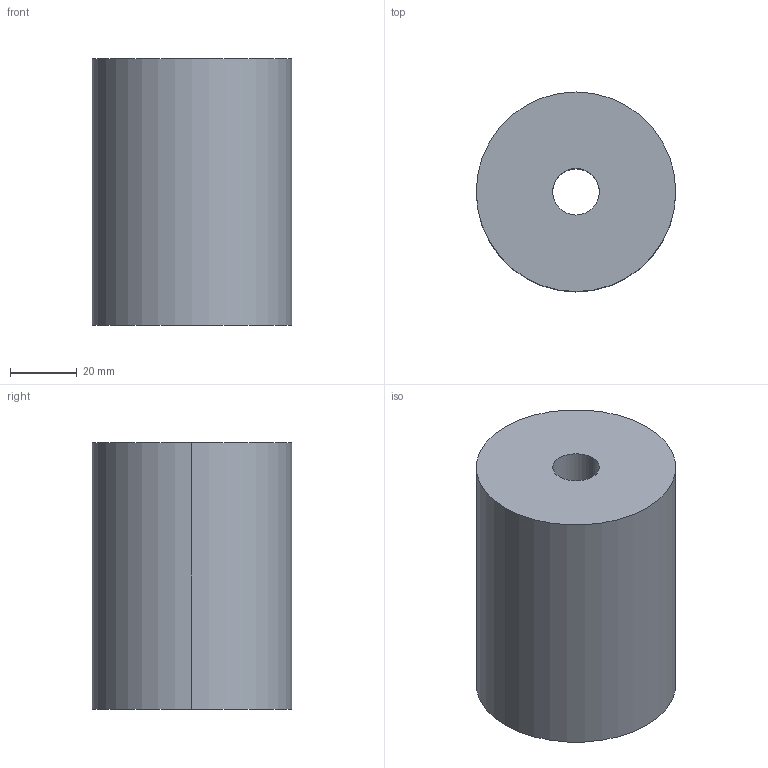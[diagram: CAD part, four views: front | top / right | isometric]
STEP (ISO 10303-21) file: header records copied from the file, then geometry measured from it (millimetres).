
FILE_DESCRIPTION(/* description */ (''),/* implementation_level */ '2;1');
FILE_NAME(/* name */ '3d_pa60-80_04918_r00.stp',/* time_stamp */ '2011-01-10T14:11:57+09:00',/* author */ ('MISUMI'),/* organization */ (''),/* preprocessor_version */ 'ST-DEVELOPER v11',/* originating_system */ 'UGS - NX 5.0',/* authorisation */ '');
FILE_SCHEMA (('CONFIG_CONTROL_DESIGN'));
Length unit declared in the file: millimetre
Products named in the file (1): 3d_pa60-80_04918_r00
Bounding box: 60 x 60 x 80 mm (x, y, z)
Volume: 213879.6 mm3; surface area: 23945.2 mm2
Topology: 1 solids, 1 shells, 6 faces, 12 edges, 8 vertices
Faces by surface type: cylinder 4, plane 2
Entity records: 254 total; most frequent: DIRECTION 34, CARTESIAN_POINT 27, ORIENTED_EDGE 24, AXIS2_PLACEMENT_3D 15, EDGE_CURVE 12, EDGE_LOOP 8, VERTEX_POINT 8, CIRCLE 8
